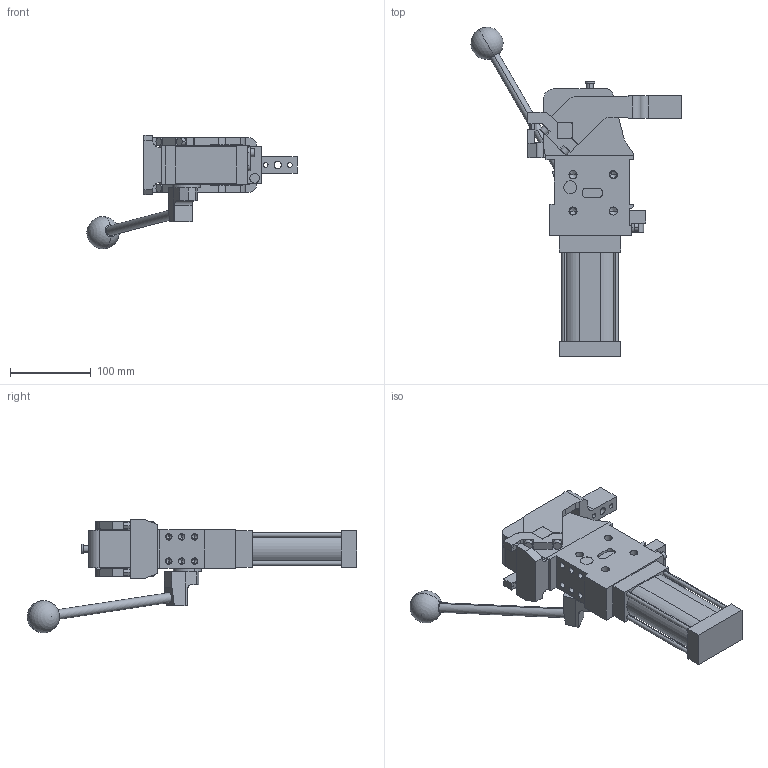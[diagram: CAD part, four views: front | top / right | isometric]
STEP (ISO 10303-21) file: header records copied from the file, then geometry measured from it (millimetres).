
FILE_DESCRIPTION (( 'STEP AP214' ), '1' );
FILE_NAME ('cplm50lbtv1csi1g_16.STEP', '2023-01-26T13:24:22', ( '' ), ( '' ), 'SwSTEP 2.0', 'SolidWorks 2022', '' );
FILE_SCHEMA (( 'AUTOMOTIVE_DESIGN' ));
Length unit declared in the file: millimetre
Products named in the file (5): meccanica_cplm_50_tassello_esterno; cplm50lbtv1csi1g_16; leva_v1cs_cpl50t; comando_manuale_cplm_50; blocchetto_VEP_0
Assembly tree (4 placements, depth 2):
  cplm50lbtv1csi1g_16
    meccanica_cplm_50_tassello_esterno
    blocchetto_VEP_0
    leva_v1cs_cpl50t
    comando_manuale_cplm_50
Bounding box: 260.54 x 408.46 x 141 mm (x, y, z)
Volume: 1500103.9 mm3; surface area: 189553.4 mm2
Topology: 4 solids, 4 shells, 468 faces, 1213 edges, 761 vertices
Faces by surface type: plane 243, cylinder 173, cone 50, sphere 2
Entity records: 15560 total; most frequent: DIRECTION 2478, CARTESIAN_POINT 2465, ORIENTED_EDGE 2324, EDGE_CURVE 1162, AXIS2_PLACEMENT_3D 845, LINE 788, VECTOR 788, VERTEX_POINT 758
